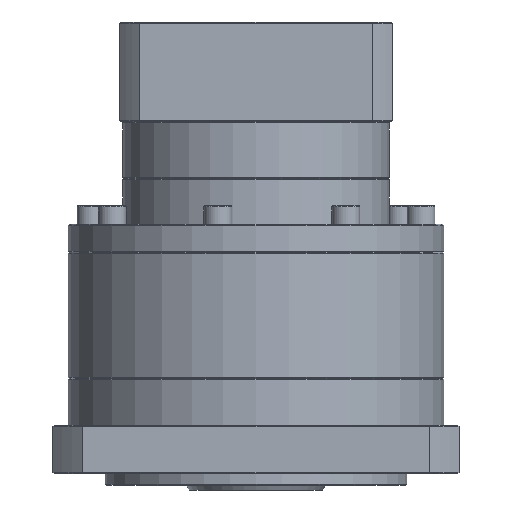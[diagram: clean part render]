
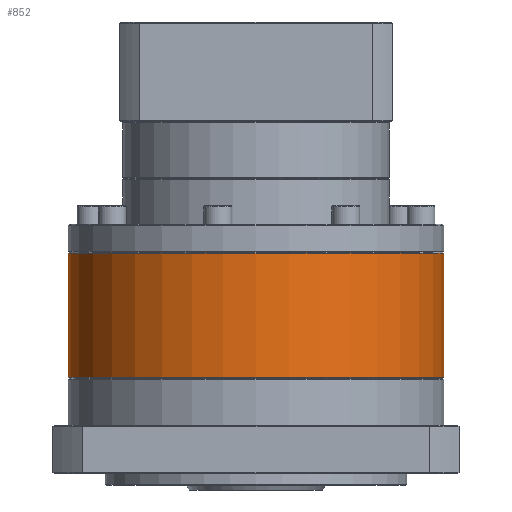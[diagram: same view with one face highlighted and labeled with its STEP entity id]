
A CAD part, front view. The second image highlights one B-rep face of the part: STEP entity #852.
In plain terms, the highlighted cylindrical face has radius 81 mm (diameter 162 mm), a partial arc.
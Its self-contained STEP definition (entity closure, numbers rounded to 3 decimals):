
#852 = ADVANCED_FACE ( 'NONE', ( #46721 ), #53221, .T. ) ;
#3307 = DIRECTION ( 'NONE',  ( 1., 0., 0. ) ) ;
#5823 = EDGE_CURVE ( 'NONE', #91266, #68983, #64364, .T. ) ;
#10222 = ORIENTED_EDGE ( 'NONE', *, *, #20335, .T. ) ;
#12495 = CARTESIAN_POINT ( 'NONE',  ( -132.469, 99.836, -137.52 ) ) ;
#12525 = DIRECTION ( 'NONE',  ( 0., 0., -1. ) ) ;
#13136 = CARTESIAN_POINT ( 'NONE',  ( -51.469, 99.836, -137.52 ) ) ;
#15515 = CARTESIAN_POINT ( 'NONE',  ( -213.469, 99.836, -83.52 ) ) ;
#17681 = DIRECTION ( 'NONE',  ( -1., 0., 0. ) ) ;
#20335 = EDGE_CURVE ( 'NONE', #30185, #71377, #75484, .T. ) ;
#21331 = CIRCLE ( 'NONE', #29759, 81. ) ;
#22477 = EDGE_CURVE ( 'NONE', #71377, #91266, #125377, .T. ) ;
#29273 = CARTESIAN_POINT ( 'NONE',  ( -132.469, 18.836, -84.02 ) ) ;
#29759 = AXIS2_PLACEMENT_3D ( 'NONE', #12495, #87622, #3307 ) ;
#30185 = VERTEX_POINT ( 'NONE', #37139 ) ;
#32013 = LINE ( 'NONE', #74921, #69851 ) ;
#33830 = CARTESIAN_POINT ( 'NONE',  ( -132.469, 99.836, -83.52 ) ) ;
#35805 = ORIENTED_EDGE ( 'NONE', *, *, #5823, .T. ) ;
#36127 = DIRECTION ( 'NONE',  ( 0., 0., -1. ) ) ;
#37139 = CARTESIAN_POINT ( 'NONE',  ( -51.469, 99.836, -84.02 ) ) ;
#43456 = DIRECTION ( 'NONE',  ( -1., 0., 0. ) ) ;
#46721 = FACE_OUTER_BOUND ( 'NONE', #93071, .T. ) ;
#50467 = EDGE_CURVE ( 'NONE', #30185, #65506, #32013, .T. ) ;
#53221 = CYLINDRICAL_SURFACE ( 'NONE', #81361, 81. ) ;
#55332 = DIRECTION ( 'NONE',  ( 0., 0., -1. ) ) ;
#57630 = DIRECTION ( 'NONE',  ( -1., 0., 0. ) ) ;
#57795 = AXIS2_PLACEMENT_3D ( 'NONE', #98773, #36127, #57630 ) ;
#63535 = AXIS2_PLACEMENT_3D ( 'NONE', #80523, #132062, #17681 ) ;
#64364 = LINE ( 'NONE', #15515, #129805 ) ;
#65506 = VERTEX_POINT ( 'NONE', #13136 ) ;
#68983 = VERTEX_POINT ( 'NONE', #118481 ) ;
#69851 = VECTOR ( 'NONE', #12525, 1000. ) ;
#71377 = VERTEX_POINT ( 'NONE', #29273 ) ;
#74921 = CARTESIAN_POINT ( 'NONE',  ( -51.469, 99.836, -83.52 ) ) ;
#75484 = CIRCLE ( 'NONE', #63535, 81. ) ;
#76541 = ORIENTED_EDGE ( 'NONE', *, *, #79398, .F. ) ;
#79398 = EDGE_CURVE ( 'NONE', #65506, #68983, #21331, .T. ) ;
#80523 = CARTESIAN_POINT ( 'NONE',  ( -132.469, 99.836, -84.02 ) ) ;
#81361 = AXIS2_PLACEMENT_3D ( 'NONE', #33830, #55332, #43456 ) ;
#87333 = ORIENTED_EDGE ( 'NONE', *, *, #50467, .F. ) ;
#87622 = DIRECTION ( 'NONE',  ( 0., 0., -1. ) ) ;
#87877 = ORIENTED_EDGE ( 'NONE', *, *, #22477, .T. ) ;
#91266 = VERTEX_POINT ( 'NONE', #132180 ) ;
#93071 = EDGE_LOOP ( 'NONE', ( #87333, #10222, #87877, #35805, #76541 ) ) ;
#98773 = CARTESIAN_POINT ( 'NONE',  ( -132.469, 99.836, -84.02 ) ) ;
#118481 = CARTESIAN_POINT ( 'NONE',  ( -213.469, 99.836, -137.52 ) ) ;
#118978 = DIRECTION ( 'NONE',  ( 0., 0., -1. ) ) ;
#125377 = CIRCLE ( 'NONE', #57795, 81. ) ;
#129805 = VECTOR ( 'NONE', #118978, 1000. ) ;
#132062 = DIRECTION ( 'NONE',  ( 0., 0., -1. ) ) ;
#132180 = CARTESIAN_POINT ( 'NONE',  ( -213.469, 99.836, -84.02 ) ) ;
